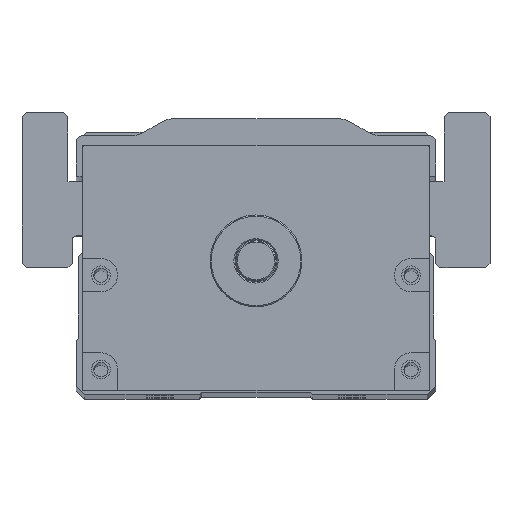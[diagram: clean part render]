
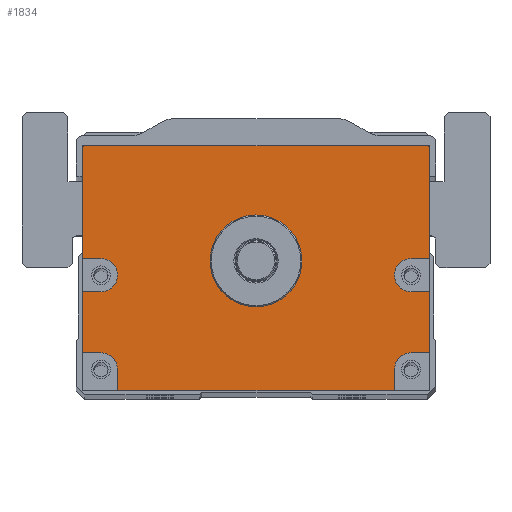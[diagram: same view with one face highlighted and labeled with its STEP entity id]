
A CAD part, top view. The second image highlights one B-rep face of the part: STEP entity #1834.
In plain terms, the highlighted planar face has unit normal (0, 0, 1).
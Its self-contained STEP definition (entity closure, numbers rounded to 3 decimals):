
#1834=ADVANCED_FACE('',(#4363,#4364),#2318,.T.);
#2318=PLANE('',#12921);
#3031=LINE('',#27805,#3839);
#3033=LINE('',#27813,#3841);
#3034=LINE('',#27816,#3842);
#3035=LINE('',#27818,#3843);
#3036=LINE('',#27822,#3844);
#3037=LINE('',#27824,#3845);
#3038=LINE('',#27825,#3846);
#3039=LINE('',#27827,#3847);
#3040=LINE('',#27831,#3848);
#3041=LINE('',#27833,#3849);
#3042=LINE('',#27835,#3850);
#3043=LINE('',#27839,#3851);
#3044=LINE('',#27841,#3852);
#3045=LINE('',#27843,#3853);
#3839=VECTOR('',#15539,1.);
#3841=VECTOR('',#15547,1.);
#3842=VECTOR('',#15548,1.);
#3843=VECTOR('',#15549,1.);
#3844=VECTOR('',#15552,1.);
#3845=VECTOR('',#15553,1.);
#3846=VECTOR('',#15554,1.);
#3847=VECTOR('',#15555,1.);
#3848=VECTOR('',#15558,1.);
#3849=VECTOR('',#15559,1.);
#3850=VECTOR('',#15560,1.);
#3851=VECTOR('',#15563,1.);
#3852=VECTOR('',#15564,1.);
#3853=VECTOR('',#15565,1.);
#4363=FACE_BOUND('',#5251,.T.);
#4364=FACE_BOUND('',#5252,.T.);
#5251=EDGE_LOOP('',(#7901,#7902,#7903,#7904,#7905,#7906,#7907,#7908,#7909,
#7910,#7911,#7912,#7913,#7914,#7915,#7916,#7917,#7918));
#5252=EDGE_LOOP('',(#7919));
#7901=ORIENTED_EDGE('',*,*,#11153,.F.);
#7902=ORIENTED_EDGE('',*,*,#11154,.T.);
#7903=ORIENTED_EDGE('',*,*,#11155,.F.);
#7904=ORIENTED_EDGE('',*,*,#11156,.F.);
#7905=ORIENTED_EDGE('',*,*,#11157,.F.);
#7906=ORIENTED_EDGE('',*,*,#11158,.T.);
#7907=ORIENTED_EDGE('',*,*,#11149,.T.);
#7908=ORIENTED_EDGE('',*,*,#11159,.T.);
#7909=ORIENTED_EDGE('',*,*,#11160,.F.);
#7910=ORIENTED_EDGE('',*,*,#11161,.F.);
#7911=ORIENTED_EDGE('',*,*,#11162,.F.);
#7912=ORIENTED_EDGE('',*,*,#11163,.T.);
#7913=ORIENTED_EDGE('',*,*,#11164,.F.);
#7914=ORIENTED_EDGE('',*,*,#11165,.F.);
#7915=ORIENTED_EDGE('',*,*,#11166,.F.);
#7916=ORIENTED_EDGE('',*,*,#11167,.T.);
#7917=ORIENTED_EDGE('',*,*,#11168,.F.);
#7918=ORIENTED_EDGE('',*,*,#11169,.F.);
#7919=ORIENTED_EDGE('',*,*,#11135,.T.);
#9648=VERTEX_POINT('',#27776);
#9661=VERTEX_POINT('',#27804);
#9662=VERTEX_POINT('',#27806);
#9665=VERTEX_POINT('',#27814);
#9666=VERTEX_POINT('',#27815);
#9667=VERTEX_POINT('',#27817);
#9668=VERTEX_POINT('',#27819);
#9669=VERTEX_POINT('',#27821);
#9670=VERTEX_POINT('',#27823);
#9671=VERTEX_POINT('',#27826);
#9672=VERTEX_POINT('',#27828);
#9673=VERTEX_POINT('',#27830);
#9674=VERTEX_POINT('',#27832);
#9675=VERTEX_POINT('',#27834);
#9676=VERTEX_POINT('',#27836);
#9677=VERTEX_POINT('',#27838);
#9678=VERTEX_POINT('',#27840);
#9679=VERTEX_POINT('',#27842);
#9680=VERTEX_POINT('',#27844);
#11135=EDGE_CURVE('',#9648,#9648,#11927,.T.);
#11149=EDGE_CURVE('',#9662,#9661,#3031,.T.);
#11153=EDGE_CURVE('',#9665,#9666,#3033,.T.);
#11154=EDGE_CURVE('',#9665,#9667,#3034,.T.);
#11155=EDGE_CURVE('',#9668,#9667,#3035,.T.);
#11156=EDGE_CURVE('',#9669,#9668,#11938,.T.);
#11157=EDGE_CURVE('',#9670,#9669,#3036,.T.);
#11158=EDGE_CURVE('',#9670,#9662,#3037,.T.);
#11159=EDGE_CURVE('',#9661,#9671,#3038,.T.);
#11160=EDGE_CURVE('',#9672,#9671,#3039,.T.);
#11161=EDGE_CURVE('',#9673,#9672,#11939,.T.);
#11162=EDGE_CURVE('',#9674,#9673,#3040,.T.);
#11163=EDGE_CURVE('',#9674,#9675,#3041,.T.);
#11164=EDGE_CURVE('',#9676,#9675,#3042,.T.);
#11165=EDGE_CURVE('',#9677,#9676,#11940,.T.);
#11166=EDGE_CURVE('',#9678,#9677,#3043,.T.);
#11167=EDGE_CURVE('',#9678,#9679,#3044,.T.);
#11168=EDGE_CURVE('',#9680,#9679,#3045,.T.);
#11169=EDGE_CURVE('',#9666,#9680,#11941,.T.);
#11927=CIRCLE('',#12903,11.);
#11938=CIRCLE('',#12917,4.);
#11939=CIRCLE('',#12918,4.);
#11940=CIRCLE('',#12919,4.);
#11941=CIRCLE('',#12920,4.);
#12903=AXIS2_PLACEMENT_3D('',#27775,#15512,#15513);
#12917=AXIS2_PLACEMENT_3D('',#27820,#15550,#15551);
#12918=AXIS2_PLACEMENT_3D('',#27829,#15556,#15557);
#12919=AXIS2_PLACEMENT_3D('',#27837,#15561,#15562);
#12920=AXIS2_PLACEMENT_3D('',#27845,#15566,#15567);
#12921=AXIS2_PLACEMENT_3D('',#27846,#15568,#15569);
#15512=DIRECTION('',(0.,0.,-1.));
#15513=DIRECTION('',(1.,0.,0.));
#15539=DIRECTION('',(-1.,0.,0.));
#15547=DIRECTION('',(-1.,0.,0.));
#15548=DIRECTION('',(0.,1.,0.));
#15549=DIRECTION('',(1.,0.,0.));
#15550=DIRECTION('',(0.,0.,1.));
#15551=DIRECTION('',(1.,0.,0.));
#15552=DIRECTION('',(-1.,0.,0.));
#15553=DIRECTION('',(0.,1.,0.));
#15554=DIRECTION('',(0.,-1.,0.));
#15555=DIRECTION('',(-1.,0.,0.));
#15556=DIRECTION('',(0.,0.,1.));
#15557=DIRECTION('',(1.,0.,0.));
#15558=DIRECTION('',(1.,0.,0.));
#15559=DIRECTION('',(0.,-1.,0.));
#15560=DIRECTION('',(-1.,0.,0.));
#15561=DIRECTION('',(0.,0.,1.));
#15562=DIRECTION('',(1.,0.,0.));
#15563=DIRECTION('',(0.,1.,0.));
#15564=DIRECTION('',(1.,0.,0.));
#15565=DIRECTION('',(0.,-1.,0.));
#15566=DIRECTION('',(0.,0.,1.));
#15567=DIRECTION('',(1.,0.,0.));
#15568=DIRECTION('',(0.,0.,1.));
#15569=DIRECTION('',(1.,0.,0.));
#27775=CARTESIAN_POINT('',(300.,0.,482.5));
#27776=CARTESIAN_POINT('',(311.,0.,482.5));
#27804=CARTESIAN_POINT('',(258.5,27.5,482.5));
#27805=CARTESIAN_POINT('',(341.5,27.5,482.5));
#27806=CARTESIAN_POINT('',(341.5,27.5,482.5));
#27813=CARTESIAN_POINT('',(341.5,-22.,482.5));
#27814=CARTESIAN_POINT('',(341.5,-22.,482.5));
#27815=CARTESIAN_POINT('',(337.115,-22.,482.5));
#27816=CARTESIAN_POINT('',(341.5,-31.,482.5));
#27817=CARTESIAN_POINT('',(341.5,-7.431,482.5));
#27818=CARTESIAN_POINT('',(341.5,-7.431,482.5));
#27819=CARTESIAN_POINT('',(337.115,-7.431,482.5));
#27820=CARTESIAN_POINT('',(337.115,-3.431,482.5));
#27821=CARTESIAN_POINT('',(337.115,0.569,482.5));
#27822=CARTESIAN_POINT('',(341.5,0.569,482.5));
#27823=CARTESIAN_POINT('',(341.5,0.569,482.5));
#27824=CARTESIAN_POINT('',(341.5,-31.,482.5));
#27825=CARTESIAN_POINT('',(258.5,27.5,482.5));
#27826=CARTESIAN_POINT('',(258.5,0.569,482.5));
#27827=CARTESIAN_POINT('',(341.5,0.569,482.5));
#27828=CARTESIAN_POINT('',(262.885,0.569,482.5));
#27829=CARTESIAN_POINT('',(262.885,-3.431,482.5));
#27830=CARTESIAN_POINT('',(262.885,-7.431,482.5));
#27831=CARTESIAN_POINT('',(341.5,-7.431,482.5));
#27832=CARTESIAN_POINT('',(258.5,-7.431,482.5));
#27833=CARTESIAN_POINT('',(258.5,27.5,482.5));
#27834=CARTESIAN_POINT('',(258.5,-22.,482.5));
#27835=CARTESIAN_POINT('',(341.5,-22.,482.5));
#27836=CARTESIAN_POINT('',(262.885,-22.,482.5));
#27837=CARTESIAN_POINT('',(262.885,-26.,482.5));
#27838=CARTESIAN_POINT('',(266.885,-26.,482.5));
#27839=CARTESIAN_POINT('',(266.885,-31.,482.5));
#27840=CARTESIAN_POINT('',(266.885,-31.,482.5));
#27841=CARTESIAN_POINT('',(258.5,-31.,482.5));
#27842=CARTESIAN_POINT('',(333.115,-31.,482.5));
#27843=CARTESIAN_POINT('',(333.115,-31.,482.5));
#27844=CARTESIAN_POINT('',(333.115,-26.,482.5));
#27845=CARTESIAN_POINT('',(337.115,-26.,482.5));
#27846=CARTESIAN_POINT('',(341.5,-31.,482.5));
